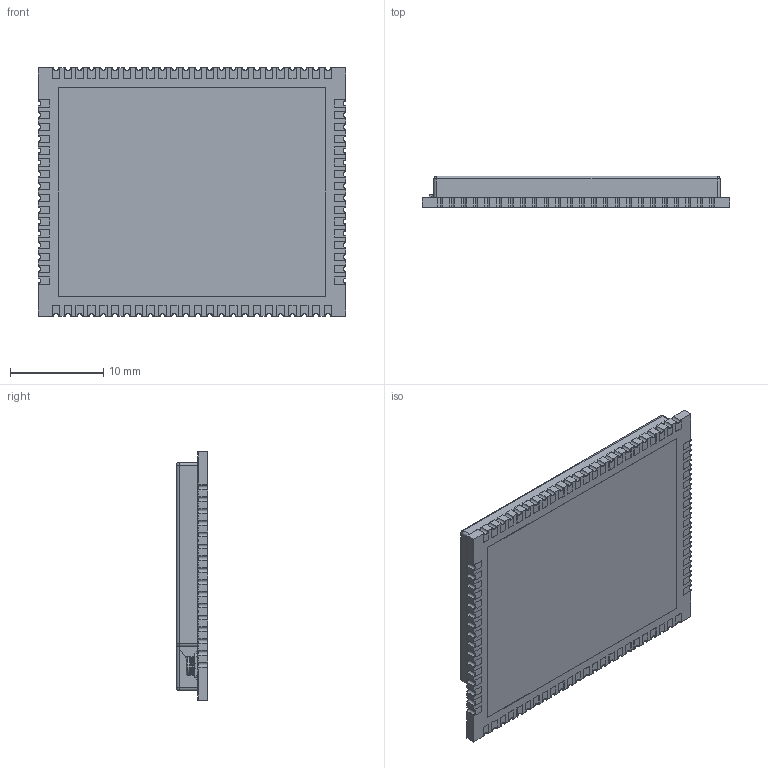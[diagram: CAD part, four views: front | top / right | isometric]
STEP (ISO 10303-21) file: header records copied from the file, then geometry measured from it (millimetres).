
FILE_DESCRIPTION (( 'STEP AP203' ), '1' );
FILE_NAME ('P900 Pico New Radio.STEP', '2013-09-18T15:25:41', ( 'Charlie' ), ( '' ), 'SwSTEP 2.0', 'SolidWorks 2010', '' );
FILE_SCHEMA (( 'CONFIG_CONTROL_DESIGN' ));
Length unit declared in the file: millimetre
Products named in the file (1): P900 Pico New Radio
Bounding box: 33.02 x 3.36 x 26.67 mm (x, y, z)
Volume: 1142.6 mm3; surface area: 4059.6 mm2
Topology: 5 solids, 5 shells, 1257 faces, 3678 edges, 2431 vertices
Faces by surface type: plane 895, cylinder 327, torus 30, sphere 5
Entity records: 41604 total; most frequent: CARTESIAN_POINT 7365, ORIENTED_EDGE 7346, DIRECTION 6896, EDGE_CURVE 3673, VECTOR 2964, LINE 2964, VERTEX_POINT 2431, AXIS2_PLACEMENT_3D 1966
